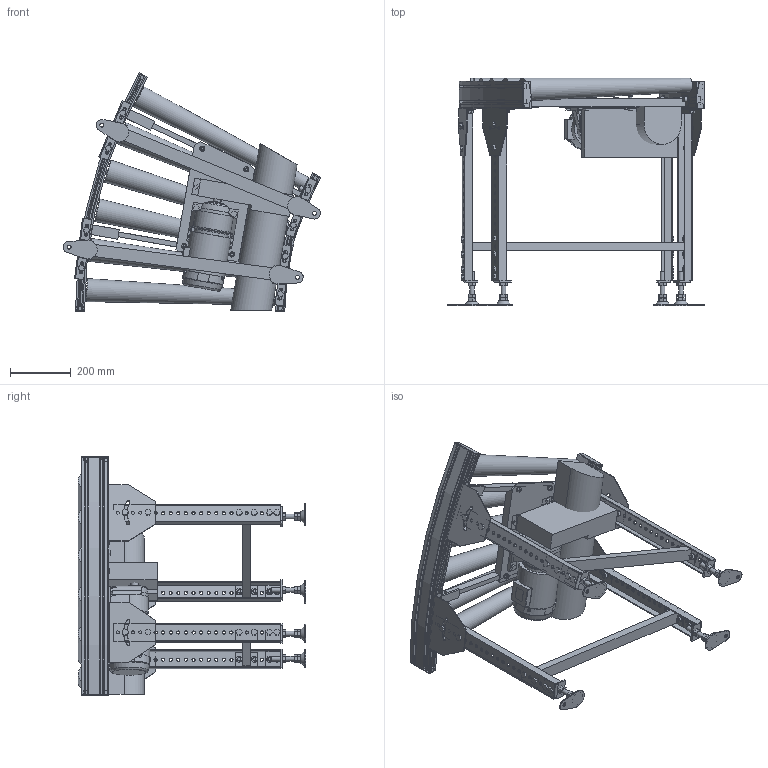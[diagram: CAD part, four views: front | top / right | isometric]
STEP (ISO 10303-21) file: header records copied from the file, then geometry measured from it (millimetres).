
FILE_DESCRIPTION( (''), '2;1');
FILE_NAME ('WEB-MCD1-50-630-100-30°-C9.stp','2026-06-19T11:04:34',(''),(''),'spGate 21.9.5 (****-****-****-****)','','');
FILE_SCHEMA (('AUTOMOTIVE_DESIGN'));
Length unit declared in the file: millimetre
Products named in the file (26): WEB-MCD1-50-630-100-30_-C9; TEMP_X_T-prt0; TEMP_X_T-prt1; TEMP_X_T-prt2; TEMP_X_T-prt3; TEMP_X_T-prt4; TEMP_X_T-prt5; TEMP_X_T-prt6; TEMP_X_T-prt7; TEMP_X_T-prt8; TEMP_X_T-prt9; TEMP_X_T-prt10; TEMP_X_T-prt11; TEMP_X_T-prt12; TEMP_X_T-prt13; TEMP_X_T-prt14; TEMP_X_T-prt15; TEMP_X_T-prt16; TEMP_X_T-prt17; TEMP_X_T-prt18; TEMP_X_T-prt19; TEMP_X_T-prt20; TEMP_X_T-prt21; TEMP_X_T-prt22; TEMP_X_T-prt23; TEMP_X_T-prt24
Assembly tree (25 placements, depth 2):
  WEB-MCD1-50-630-100-30_-C9
    TEMP_X_T-prt0
    TEMP_X_T-prt1
    TEMP_X_T-prt2
    TEMP_X_T-prt3
    TEMP_X_T-prt4
    TEMP_X_T-prt5
    TEMP_X_T-prt6
    TEMP_X_T-prt7
    TEMP_X_T-prt8
    TEMP_X_T-prt9
    TEMP_X_T-prt10
    TEMP_X_T-prt11
    TEMP_X_T-prt12
    TEMP_X_T-prt13
    TEMP_X_T-prt14
    TEMP_X_T-prt15
    TEMP_X_T-prt16
    TEMP_X_T-prt17
    TEMP_X_T-prt18
    TEMP_X_T-prt19
    TEMP_X_T-prt20
    TEMP_X_T-prt21
    TEMP_X_T-prt22
    TEMP_X_T-prt23
    TEMP_X_T-prt24
Bounding box: 847.9 x 749.94 x 785.6 mm (x, y, z)
Volume: 33534711.8 mm3; surface area: 3286562.8 mm2
Topology: 25 solids, 47 shells, 2197 faces, 5447 edges, 3537 vertices
Faces by surface type: plane 1787, cylinder 381, bspline 29
Full cylindrical faces by diameter (mm): 6 x1, 8 x16, 10 x32, 10.5 x80, 11 x4, 12 x13, 12.2 x2, 12.5 x2, 13 x4, 15.4 x8, 16 x18, 17 x8, 18.4 x28, 18.5 x8, 21 x8, 24 x1, 28 x1, 56 x1, 113.2 x1, 125 x1, 135.411 x1
Entity records: 111509 total; most frequent: CARTESIAN_POINT 13021, DIRECTION 11138, ORIENTED_EDGE 10892, COLOUR_RGB 7668, PRESENTATION_STYLE_ASSIGNMENT 7668, STYLED_ITEM 7668, EDGE_CURVE 5446, DRAUGHTING_PRE_DEFINED_CURVE_FONT 5446
